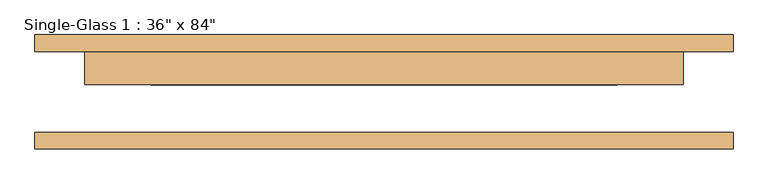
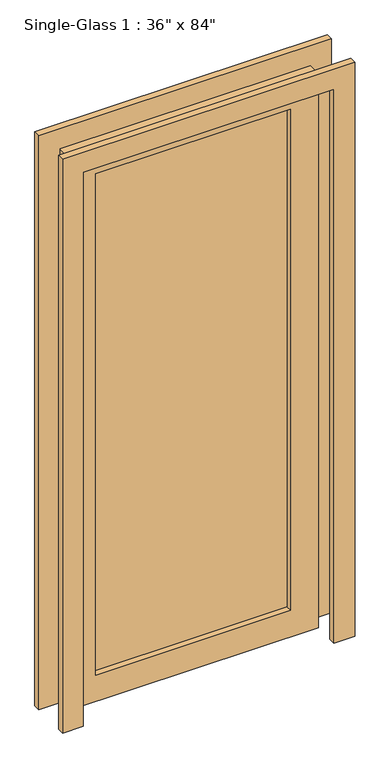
"""IFC4 building model written with IfcOpenShell, lengths in millimetres: door geometry."""

import ifcopenshell
import ifcopenshell.guid

model = None  # the IFC model being written
_history = None  # IfcOwnerHistory: only IFC2X3 demands one
_inside = {}  # id of a spatial element -> (the spatial element, [elements in it])
_under = {}  # id of a project, library or spatial element -> (it, [spatial elements below it])
_declared = {}  # id of a project -> (the project, [libraries it declares])
_typed = {}  # id of a type object -> (the type object, [elements of that type])
_made_of = {}  # id of a material, layer set ... -> (it, [elements and type objects made of it])


def new_model(schema):
    """Start an empty IFC model of exactly this schema.

    Asked for "IFC4X3", IfcOpenShell would pick the latest addendum, in which some entities
    have other attributes; the version numbers below select the first issue.
    IFC2X3 requires an IfcOwnerHistory on every rooted entity: one is made here for all.
    """
    global model, _history
    if schema == "IFC4X3":
        model = ifcopenshell.file(schema_version=(4, 3, 0, 0))
    else:
        model = ifcopenshell.file(schema=schema)
    _inside.clear()
    _under.clear()
    _declared.clear()
    _typed.clear()
    _made_of.clear()
    _history = None
    if model.schema == "IFC2X3":
        org = make("IfcOrganization", Name="unknown")
        user = make(
            "IfcPersonAndOrganization",
            ThePerson=make("IfcPerson", FamilyName="unknown"),
            TheOrganization=org,
        )
        app = make(
            "IfcApplication",
            ApplicationDeveloper=org,
            Version="unknown",
            ApplicationFullName="unknown",
            ApplicationIdentifier="unknown",
        )
        _history = make(
            "IfcOwnerHistory",
            OwningUser=user,
            OwningApplication=app,
            ChangeAction="ADDED",
            CreationDate=0,
        )
    return model


def make(cls, **values):
    """One entity of the class cls with the attributes given. An attribute that is None is left unset."""
    return model.create_entity(
        cls, **{name: value for name, value in values.items() if value is not None}
    )


def rooted(cls, **values):
    """An entity with a GlobalId (a new one), such as an element, a storey or a relation."""
    return make(cls, GlobalId=ifcopenshell.guid.new(), OwnerHistory=_history, **values)


def si_unit(unit_type, name, prefix=None):
    """IfcSIUnit, for example si_unit("LENGTHUNIT", "METRE", prefix="MILLI")."""
    return make("IfcSIUnit", UnitType=unit_type, Prefix=prefix, Name=name)


def assignment(units):
    """IfcUnitAssignment: the units of a project."""
    return None if units is None else make("IfcUnitAssignment", Units=units)


def point(xyz):
    """IfcCartesianPoint."""
    return None if xyz is None else make("IfcCartesianPoint", Coordinates=xyz)


def direction(xyz):
    """IfcDirection."""
    return None if xyz is None else make("IfcDirection", DirectionRatios=xyz)


def frame(location, z_axis=None, x_axis=None):
    """IfcAxis2Placement3D, a coordinate frame: its origin and axes. An axis left out is left unset."""
    return make(
        "IfcAxis2Placement3D",
        Location=point(location),
        Axis=direction(z_axis),
        RefDirection=direction(x_axis),
    )


def origin():
    """The frame at (0, 0, 0) with its axes left unset."""
    return frame((0.0, 0.0, 0.0))


def place(relative_to, where):
    """IfcLocalPlacement: puts the frame where relative to a parent placement (None: the world)."""
    return make(
        "IfcLocalPlacement", PlacementRelTo=relative_to, RelativePlacement=where
    )


def context(
    kind, dimensions, precision=None, world=None, true_north=None, identifier=None
):
    """IfcGeometricRepresentationContext, for example the 3D "Model" context."""
    return make(
        "IfcGeometricRepresentationContext",
        ContextIdentifier=identifier,
        ContextType=kind,
        CoordinateSpaceDimension=dimensions,
        Precision=precision,
        WorldCoordinateSystem=world,
        TrueNorth=true_north,
    )


def project(units=None, contexts=None):
    """IfcProject with its units and contexts."""
    return rooted(
        "IfcProject",
        Name="project",
        RepresentationContexts=contexts,
        UnitsInContext=assignment(units),
    )


def spatial(cls, under=None, at=None, **own):
    """A site, building, storey or space (cls), placed at a placement, below another one or the project."""
    s = rooted(cls, ObjectPlacement=at, **own)
    if under is not None:
        _under.setdefault(under.id(), (under, []))[1].append(s)
    return s


def polyline(points):
    """IfcPolyline through the points."""
    return make("IfcPolyline", Points=[point(p) for p in points])


def outline(outer, holes=None, kind="AREA"):
    """IfcArbitraryClosedProfileDef: a profile drawn as a closed curve; with holes, ...WithVoids."""
    if holes is None:
        return make("IfcArbitraryClosedProfileDef", ProfileType=kind, OuterCurve=outer)
    return make(
        "IfcArbitraryProfileDefWithVoids",
        ProfileType=kind,
        OuterCurve=outer,
        InnerCurves=holes,
    )


def extrude(swept, where, along, depth):
    """IfcExtrudedAreaSolid: the profile swept, set in the frame where, extruded along a direction by depth."""
    return make(
        "IfcExtrudedAreaSolid",
        SweptArea=swept,
        Position=where,
        ExtrudedDirection=direction(along),
        Depth=depth,
    )


def shape(context_of_items, identifier, shape_type, items):
    """IfcShapeRepresentation: the items that make up one representation, for example the "Body"."""
    return make(
        "IfcShapeRepresentation",
        ContextOfItems=context_of_items,
        RepresentationIdentifier=identifier,
        RepresentationType=shape_type,
        Items=items,
    )


def source(mapping_origin, context_of_items, identifier, shape_type, items):
    """IfcRepresentationMap: a shape defined once, which mapped items show again and again."""
    return make(
        "IfcRepresentationMap",
        MappingOrigin=mapping_origin,
        MappedRepresentation=shape(context_of_items, identifier, shape_type, items),
    )


def transform(
    local_origin,
    x_axis=None,
    y_axis=None,
    z_axis=None,
    scale=None,
    scale2=None,
    scale3=None,
    uniform=True,
):
    """IfcCartesianTransformationOperator3D, or its non-uniform kind. x_axis, y_axis, z_axis: its Axis1, 2, 3."""
    if uniform:
        return make(
            "IfcCartesianTransformationOperator3D",
            Axis1=direction(x_axis),
            Axis2=direction(y_axis),
            LocalOrigin=point(local_origin),
            Scale=scale,
            Axis3=direction(z_axis),
        )
    return make(
        "IfcCartesianTransformationOperator3DnonUniform",
        Axis1=direction(x_axis),
        Axis2=direction(y_axis),
        LocalOrigin=point(local_origin),
        Scale=scale,
        Axis3=direction(z_axis),
        Scale2=scale2,
        Scale3=scale3,
    )


def mapped(mapping_source, mapping_target):
    """IfcMappedItem: shows the shape of a source again, moved by a transform."""
    return make(
        "IfcMappedItem", MappingSource=mapping_source, MappingTarget=mapping_target
    )


def made_of(thing, what):
    """Note that an element or type object is made of a material, layer set ...; save() writes the relation."""
    if what is not None:
        _made_of.setdefault(what.id(), (what, []))[1].append(thing)
    return thing


def element(
    cls,
    number,
    at=None,
    inside=None,
    cuts=None,
    type_object=None,
    material=None,
    context=None,
    identifier="Body",
    shape_type=None,
    held_by="IfcProductDefinitionShape",
    body=None,
    shapes=None,
    **own,
):
    """One element of the class cls, such as IfcWall. Its Tag is "e" and its number.

    at: its placement. inside: the storey or other place that contains it. cuts: it is an
    opening in that element (IfcRelVoidsElement). A single representation is given by context,
    identifier, shape_type and body (its items); several are given by shapes. held_by: the class
    of the entity that holds the representations. save() writes the other relations.
    """
    e = rooted(cls, Tag="e%d" % number, ObjectPlacement=at, **own)
    if body is not None:
        shapes = [shape(context, identifier, shape_type, body)]
    if shapes is not None:
        e.Representation = make(held_by, Representations=shapes)
    if inside is not None:
        _inside.setdefault(inside.id(), (inside, []))[1].append(e)
    if cuts is not None:
        rooted(
            "IfcRelVoidsElement", RelatingBuildingElement=cuts, RelatedOpeningElement=e
        )
    if type_object is not None:
        _typed.setdefault(type_object.id(), (type_object, []))[1].append(e)
    return made_of(e, material)


def aggregate(whole, parts):
    """IfcRelAggregates: a whole, such as a stair, and the parts it consists of."""
    return rooted("IfcRelAggregates", RelatingObject=whole, RelatedObjects=parts)


def save(model, path):
    """Write the relations noted so far, then the file.

    IfcRelAggregates (storeys below a building ...), IfcRelContainedInSpatialStructure (elements
    in a storey), IfcRelDefinesByType, IfcRelAssociatesMaterial and IfcRelDeclares: one each for
    every whole, place, type object, material and project.
    """
    for whole, parts in _under.values():
        aggregate(whole, parts)
    for where, things in _inside.values():
        rooted(
            "IfcRelContainedInSpatialStructure",
            RelatedElements=things,
            RelatingStructure=where,
        )
    for kind, things in _typed.values():
        rooted("IfcRelDefinesByType", RelatedObjects=things, RelatingType=kind)
    for what, things in _made_of.values():
        rooted("IfcRelAssociatesMaterial", RelatedObjects=things, RelatingMaterial=what)
    for by, libraries in _declared.values():
        rooted("IfcRelDeclares", RelatingContext=by, RelatedDefinitions=libraries)
    model.write(path)


def door_30311ba1(model_context):
    return source(origin(), model_context, "Body", "SweptSolid", [
        extrude(outline(polyline([(2133.6, 457.2), (0.0, 457.2), (0.0, 533.4), (2209.8, 533.4), (2209.8, -533.4), (0.0, -533.4), (0.0, -457.2), (2133.6, -457.2), (2133.6, 457.2)])), frame((0.0, -87.3125, 0.0), z_axis=(0.0, 1.0, 0.0), x_axis=(0.0, 0.0, 1.0)), (0.0, 0.0, 1.0), 25.4),
        extrude(outline(polyline([(2133.6, 457.2), (0.0, 457.2), (0.0, 533.4), (2209.8, 533.4), (2209.8, -533.4), (0.0, -533.4), (0.0, -457.2), (2133.6, -457.2), (2133.6, 457.2)])), frame((0.0, 61.9125, 0.0), z_axis=(0.0, 1.0, 0.0), x_axis=(0.0, 0.0, 1.0)), (0.0, 0.0, 1.0), 25.4),
        extrude(outline(polyline([(355.6, 33.3375), (-355.6, 33.3375), (-355.6, 39.6875), (355.6, 39.6875), (355.6, 33.3375)])), frame((0.0, 0.0, 101.6), z_axis=(0.0, 0.0, 1.0), x_axis=(1.0, 0.0, 0.0)), (0.0, 0.0, 1.0), 1930.4),
        extrude(outline(polyline([(2133.6, 457.2), (2133.6, -457.2), (0.0, -457.2), (0.0, 457.2), (2133.6, 457.2)]), holes=[polyline([(2032.0, -355.6), (2032.0, 355.6), (101.6, 355.6), (101.6, -355.6), (2032.0, -355.6)])]), frame((0.0, 11.1125, 0.0), z_axis=(0.0, 1.0, 0.0), x_axis=(0.0, 0.0, 1.0)), (0.0, 0.0, 1.0), 50.8),
    ])


if __name__ == "__main__":
    model = new_model("IFC4")
    model_context = context("Model", 3, world=origin())
    ifc_project = project(units=[si_unit("LENGTHUNIT", "METRE", prefix="MILLI")], contexts=[model_context])
    site = spatial("IfcSite", under=ifc_project)
    building = spatial("IfcBuilding", under=site)
    placement = place(None, origin())
    door_shape = door_30311ba1(model_context)
    element("IfcDoor", 1, ObjectType="Single-Glass 1 : 36\" x 84\"", at=placement, inside=building, context=model_context, shape_type="MappedRepresentation", body=[
        mapped(door_shape, transform((0.0, 0.0, 0.0), x_axis=(1.0, 0.0, 0.0), y_axis=(0.0, 1.0, 0.0), z_axis=(0.0, 0.0, 1.0))),
    ])
    save(model, "model.ifc")
